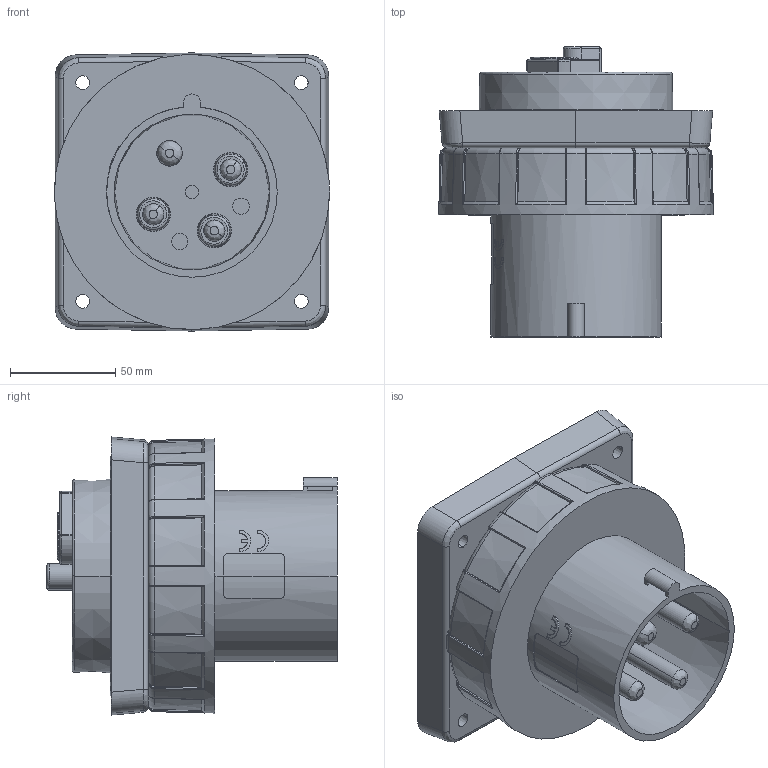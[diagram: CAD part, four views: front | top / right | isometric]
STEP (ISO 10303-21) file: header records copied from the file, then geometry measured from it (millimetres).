
FILE_DESCRIPTION((''),'2;1');
FILE_NAME('1112775_ASM_SW0006','2018-11-05T',('weltickej'),('MENNEKES'),'PRO/ENGINEER BY PARAMETRIC TECHNOLOGY CORPORATION, 2015440','PRO/ENGINEER BY PARAMETRIC TECHNOLOGY CORPORATION, 2015440','');
FILE_SCHEMA(('AUTOMOTIVE_DESIGN { 1 0 10303 214 1 1 1 1 }'));
Length unit declared in the file: millimetre
Products named in the file (1): 1112775_ASM_SW0006
Bounding box: 130.85 x 138 x 132.27 mm (x, y, z)
Volume: 811727.5 mm3; surface area: 122094.3 mm2
Topology: 1 solids, 1 shells, 625 faces, 1547 edges, 963 vertices
Faces by surface type: cylinder 193, plane 192, cone 83, torus 78, bspline 65, sphere 14
Entity records: 29354 total; most frequent: CARTESIAN_POINT 7597, ORIENTED_EDGE 3094, DIRECTION 2951, EDGE_CURVE 1547, AXIS2_PLACEMENT_3D 1202, FILL_AREA_STYLE_COLOUR 1148, FILL_AREA_STYLE 1148, SURFACE_STYLE_FILL_AREA 1148
